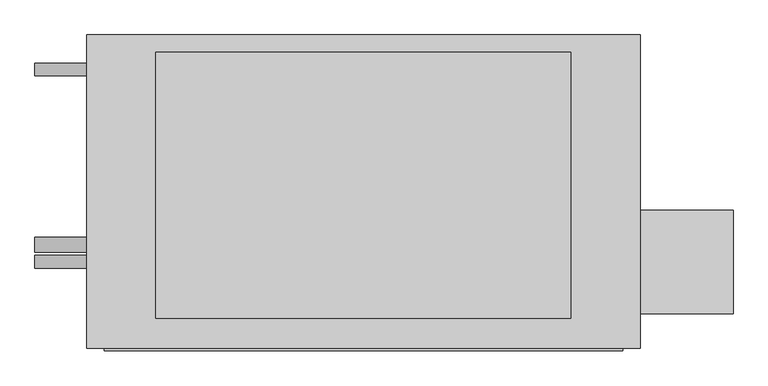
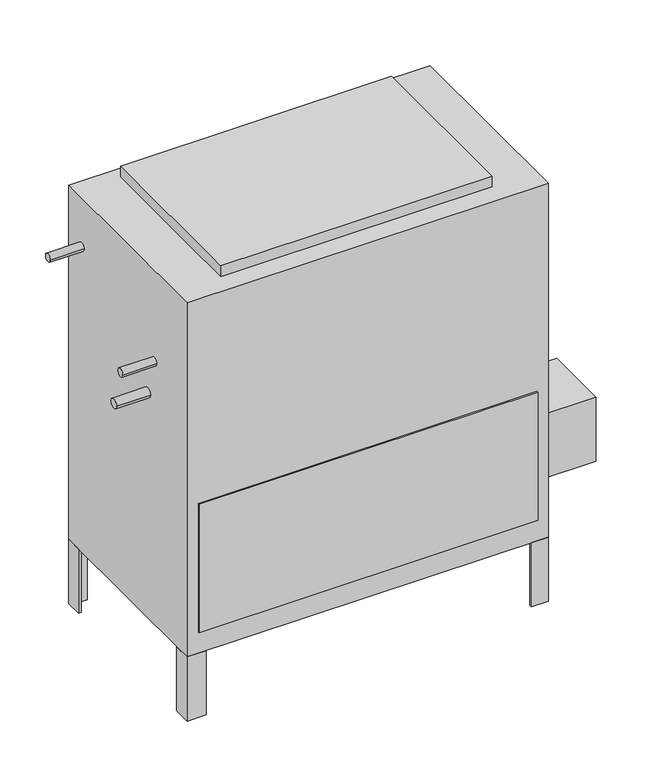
"""IFC4 building model written with IfcOpenShell, lengths in millimetres: proxy geometry, Concealed_High_Capacity_Vertical_Fan_Coil_Unit_-_42DDA_-_CARRIER_-_2-Pipe_Cool-EHeat_LH_2022 : Size 10 - 277v/60Hz/1Ph - 6 Row 7.0kW."""

from ifc_helpers import new_model, si_unit, point, frame, frame_2d, origin, origin_with_axes, place, context, project, spatial, polyline, circle_curve, trimmed, segment, composite_curve, outline, extrude, source, transform, mapped, element, save


def mechanical_equipment_93967929(model_context):
    return source(origin(), model_context, "Body", "SweptSolid", [
        extrude(outline(polyline([(558.8, -417.5125), (558.8, -265.1125), (695.325, -265.1125), (695.325, -417.5125), (558.8, -417.5125)])), frame((0.0, 0.0, 101.6), z_axis=(0.0, 0.0, 1.0), x_axis=(1.0, 0.0, 0.0)), (0.0, 0.0, 1.0), 152.4),
        extrude(outline(polyline([(558.8, -46.0375), (552.45, -46.0375), (552.45, -14.2875), (520.7, -14.2875), (520.7, -7.9375), (558.8, -7.9375), (558.8, -46.0375)])), frame((0.0, 0.0, -152.4), z_axis=(0.0, 0.0, 1.0), x_axis=(1.0, 0.0, 0.0)), (0.0, 0.0, 1.0), 152.4),
        extrude(outline(polyline([(-215.9, -7.9375), (-215.9, -14.2875), (-247.65, -14.2875), (-247.65, -46.0375), (-254.0, -46.0375), (-254.0, -7.9375), (-215.9, -7.9375)])), frame((0.0, 0.0, -152.4), z_axis=(0.0, 0.0, 1.0), x_axis=(1.0, 0.0, 0.0)), (0.0, 0.0, 1.0), 152.4),
        extrude(outline(polyline([(520.7, -468.3125), (520.7, -461.9625), (552.45, -461.9625), (552.45, -430.2125), (558.8, -430.2125), (558.8, -468.3125), (520.7, -468.3125)])), frame((0.0, 0.0, -152.4), z_axis=(0.0, 0.0, 1.0), x_axis=(1.0, 0.0, 0.0)), (0.0, 0.0, 1.0), 152.4),
        extrude(outline(polyline([(-254.0, -428.1199163), (-247.65, -428.1199163), (-247.65, -461.9625), (-210.5318533, -461.9625), (-210.5318533, -468.3125), (-254.0, -468.3125), (-254.0, -428.1199163)])), frame((0.0, 0.0, -152.4), z_axis=(0.0, 0.0, 1.0), x_axis=(1.0, 0.0, 0.0)), (0.0, 0.0, 1.0), 152.4),
        extrude(outline(polyline([(457.2, -33.3375), (457.2, -423.8625), (-152.4, -423.8625), (-152.4, -33.3375), (457.2, -33.3375)])), frame((0.0, 0.0, 841.375), z_axis=(0.0, 0.0, 1.0), x_axis=(1.0, 0.0, 0.0)), (0.0, 0.0, 1.0), 25.4),
        extrude(outline(polyline([(533.4, -471.4875), (-228.6, -471.4875), (-228.6, -468.3125), (533.4, -468.3125), (533.4, -471.4875)])), frame((0.0, 0.0, 50.8), z_axis=(0.0, 0.0, 1.0), x_axis=(1.0, 0.0, 0.0)), (0.0, 0.0, 1.0), 304.8),
        extrude(outline(composite_curve([segment(trimmed(circle_curve(frame_2d((-58.7375, 727.075)), 9.525), [point((-68.2625, 727.075))], [point((-49.2125, 727.075))], False, "CARTESIAN"), True, "CONTINUOUS"), segment(trimmed(circle_curve(frame_2d((-58.7375, 727.075)), 9.525), [point((-49.2125, 727.075))], [point((-68.2625, 727.075))], False, "CARTESIAN"), True, "CONTINUOUS")], self_intersect=False)), frame((-330.2, 0.0, 0.0), z_axis=(1.0, 0.0, 0.0), x_axis=(0.0, 1.0, 0.0)), (0.0, 0.0, 1.0), 76.2),
        extrude(outline(composite_curve([segment(trimmed(circle_curve(frame_2d((-341.3125, 625.475)), 9.525), [point((-350.8375, 625.475))], [point((-331.7875, 625.475))], False, "CARTESIAN"), True, "CONTINUOUS"), segment(trimmed(circle_curve(frame_2d((-341.3125, 625.475)), 9.525), [point((-331.7875, 625.475))], [point((-350.8375, 625.475))], False, "CARTESIAN"), True, "CONTINUOUS")], self_intersect=False)), frame((-330.2, 0.0, 0.0), z_axis=(1.0, 0.0, 0.0), x_axis=(0.0, 1.0, 0.0)), (0.0, 0.0, 1.0), 76.2),
        extrude(outline(composite_curve([segment(trimmed(circle_curve(frame_2d((-315.9125, 536.575)), 11.1125), [point((-327.025, 536.575))], [point((-304.8, 536.575))], False, "CARTESIAN"), True, "CONTINUOUS"), segment(trimmed(circle_curve(frame_2d((-315.9125, 536.575)), 11.1125), [point((-304.8, 536.575))], [point((-327.025, 536.575))], False, "CARTESIAN"), True, "CONTINUOUS")], self_intersect=False)), frame((-330.2, 0.0, 0.0), z_axis=(1.0, 0.0, 0.0), x_axis=(0.0, 1.0, 0.0)), (0.0, 0.0, 1.0), 76.2),
        extrude(outline(polyline([(558.8, -7.9375), (558.8, -468.3125), (-254.0, -468.3125), (-254.0, -7.9375), (558.8, -7.9375)])), origin_with_axes(), (0.0, 0.0, 1.0), 841.375),
    ])


if __name__ == "__main__":
    model = new_model("IFC4")
    model_context = context("Model", 3, world=origin())
    ifc_project = project(units=[si_unit("LENGTHUNIT", "METRE", prefix="MILLI")], contexts=[model_context])
    site = spatial("IfcSite", under=ifc_project)
    building = spatial("IfcBuilding", under=site)
    placement = place(None, origin())
    mechanical_equipment_shape = mechanical_equipment_93967929(model_context)
    element("IfcBuildingElementProxy", 1, Name="Concealed_High_Capacity_Vertical_Fan_Coil_Unit_-_42DDA_-_CARRIER_-_2-Pipe_Cool-EHeat_LH_2022 : Size 10 - 277v/60Hz/1Ph - 6 Row 7.0kW", ObjectType="Concealed_High_Capacity_Vertical_Fan_Coil_Unit_-_42DDA_-_CARRIER_-_2-Pipe_Cool-EHeat_LH_2022 : Size 10 - 277v/60Hz/1Ph - 6 Row 7.0kW", at=placement, inside=building, context=model_context, shape_type="MappedRepresentation", body=[
        mapped(mechanical_equipment_shape, transform((0.0, 0.0, 0.0), x_axis=(1.0, 0.0, 0.0), y_axis=(0.0, 1.0, 0.0), z_axis=(0.0, 0.0, 1.0))),
    ])
    save(model, "model.ifc")
